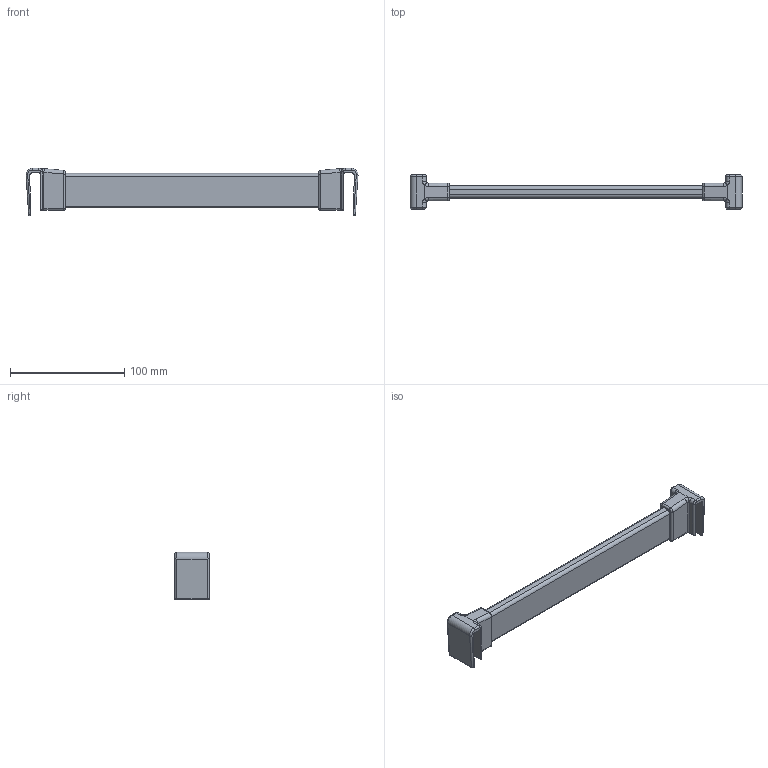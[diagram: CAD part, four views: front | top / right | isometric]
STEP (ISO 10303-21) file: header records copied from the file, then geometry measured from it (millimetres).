
FILE_DESCRIPTION (( 'STEP AP214' ), '1' );
FILE_NAME ('_Querreling_KAB-350_KS-16_P602_Glashalter.step', '2010-08-26T14:59:26', ( 'grass' ), ( '' ), 'SwSTEP 2.0', 'SolidWorks 2009', '' );
FILE_SCHEMA (( 'AUTOMOTIVE_DESIGN' ));
Length unit declared in the file: millimetre
Products named in the file (1): _Querreling_KAB-350_KS-16_P602_Glashalter
Bounding box: 290.78 x 30 x 41.5 mm (x, y, z)
Volume: 103418.8 mm3; surface area: 31087.7 mm2
Topology: 1 solids, 1 shells, 124 faces, 300 edges, 176 vertices
Faces by surface type: cylinder 58, plane 34, torus 16, bspline 12, sphere 4
Entity records: 5090 total; most frequent: CARTESIAN_POINT 2269, ORIENTED_EDGE 592, DIRECTION 590, EDGE_CURVE 296, AXIS2_PLACEMENT_3D 225, VERTEX_POINT 176, LINE 140, VECTOR 140
